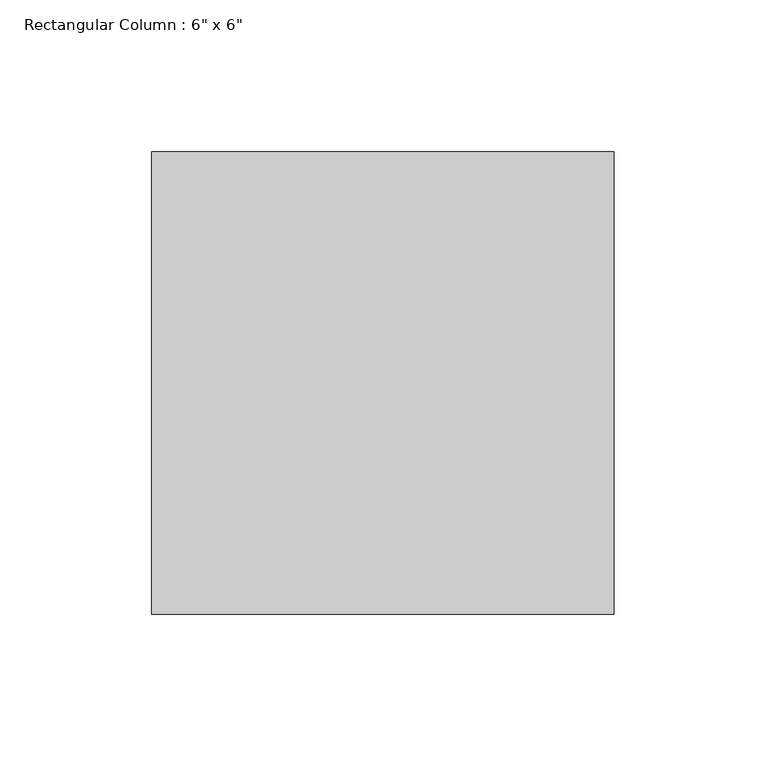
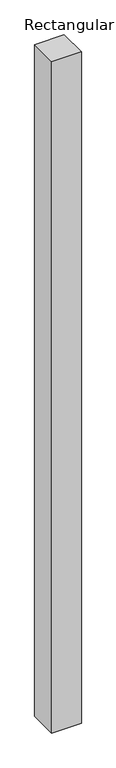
"""IFC4 building model written with IfcOpenShell, lengths in millimetres: column geometry."""

from ifc_helpers import new_model, si_unit, origin, origin_with_axes, place, context, project, spatial, polyline, outline, extrude, source, transform, mapped, element, save


def column_9fefe003(model_context):
    return source(origin(), model_context, "Body", "SweptSolid", [
        extrude(outline(polyline([(76.2, 76.2), (76.2, -76.2), (-76.2, -76.2), (-76.2, 76.2), (76.2, 76.2)])), origin_with_axes(), (0.0, 0.0, 1.0), 3657.6),
    ])


if __name__ == "__main__":
    model = new_model("IFC4")
    model_context = context("Model", 3, world=origin())
    ifc_project = project(units=[si_unit("LENGTHUNIT", "METRE", prefix="MILLI")], contexts=[model_context])
    site = spatial("IfcSite", under=ifc_project)
    building = spatial("IfcBuilding", under=site)
    placement = place(None, origin())
    column_shape = column_9fefe003(model_context)
    element("IfcColumn", 1, ObjectType="Rectangular Column : 6\" x 6\"", at=placement, inside=building, context=model_context, shape_type="MappedRepresentation", body=[
        mapped(column_shape, transform((0.0, 0.0, 0.0), x_axis=(1.0, 0.0, 0.0), y_axis=(0.0, 1.0, 0.0), z_axis=(0.0, 0.0, 1.0))),
    ])
    save(model, "model.ifc")
